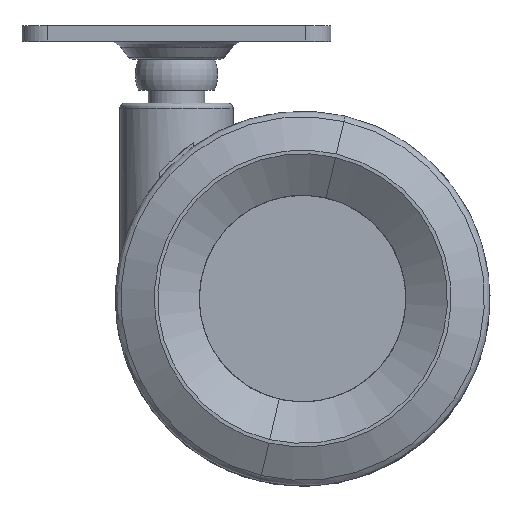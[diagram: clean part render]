
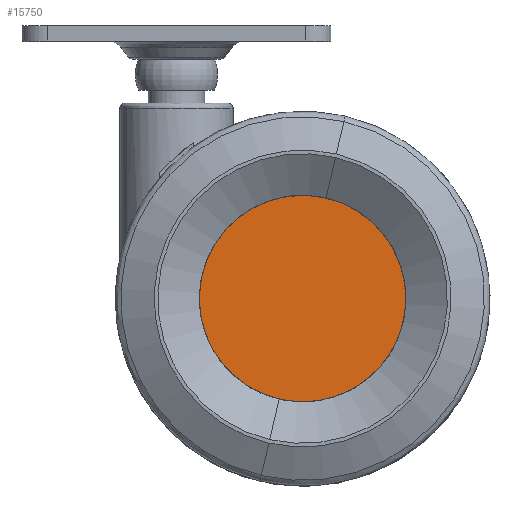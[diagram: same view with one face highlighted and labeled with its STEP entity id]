
A CAD part, top view. The second image highlights one B-rep face of the part: STEP entity #15750.
In plain terms, the highlighted planar face has unit normal (0, 0, 1) as drawn and (-1, 0, 0) by its records, which use the part's own axes.
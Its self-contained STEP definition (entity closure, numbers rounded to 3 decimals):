
#5152 = DIRECTION ( 'NONE',  ( -1., 0., 0. ) ) ;
#5386 = FACE_OUTER_BOUND ( 'NONE', #21950, .T. ) ;
#6267 = CARTESIAN_POINT ( 'NONE',  ( 0., 0., -20.065 ) ) ;
#6388 = EDGE_CURVE ( 'NONE', #30772, #21893, #15215, .T. ) ;
#10473 = ORIENTED_EDGE ( 'NONE', *, *, #6388, .T. ) ;
#11469 = CIRCLE ( 'NONE', #17698, 20.065 ) ;
#12010 = CARTESIAN_POINT ( 'NONE',  ( 0., 0., 0. ) ) ;
#15215 = CIRCLE ( 'NONE', #29185, 20.065 ) ;
#15315 = DIRECTION ( 'NONE',  ( 0., 0., 1. ) ) ;
#15750 = ADVANCED_FACE ( 'NONE', ( #5386 ), #17444, .T. ) ;
#16893 = DIRECTION ( 'NONE',  ( 0., 0., -1. ) ) ;
#17371 = DIRECTION ( 'NONE',  ( 0., 0., -1. ) ) ;
#17444 = PLANE ( 'NONE',  #31298 ) ;
#17698 = AXIS2_PLACEMENT_3D ( 'NONE', #12010, #31319, #16893 ) ;
#18464 = CARTESIAN_POINT ( 'NONE',  ( 0., 0., 20.065 ) ) ;
#19712 = ORIENTED_EDGE ( 'NONE', *, *, #25990, .T. ) ;
#20019 = CARTESIAN_POINT ( 'NONE',  ( 0., 20.065, 0. ) ) ;
#21893 = VERTEX_POINT ( 'NONE', #6267 ) ;
#21950 = EDGE_LOOP ( 'NONE', ( #19712, #10473 ) ) ;
#24330 = CARTESIAN_POINT ( 'NONE',  ( 0., 0., 0. ) ) ;
#25354 = DIRECTION ( 'NONE',  ( -1., 0., 0. ) ) ;
#25990 = EDGE_CURVE ( 'NONE', #21893, #30772, #11469, .T. ) ;
#29185 = AXIS2_PLACEMENT_3D ( 'NONE', #24330, #5152, #17371 ) ;
#30772 = VERTEX_POINT ( 'NONE', #18464 ) ;
#31298 = AXIS2_PLACEMENT_3D ( 'NONE', #20019, #25354, #15315 ) ;
#31319 = DIRECTION ( 'NONE',  ( -1., 0., 0. ) ) ;
